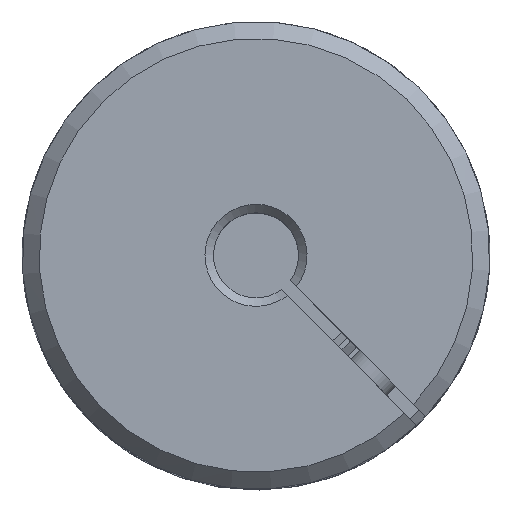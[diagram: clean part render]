
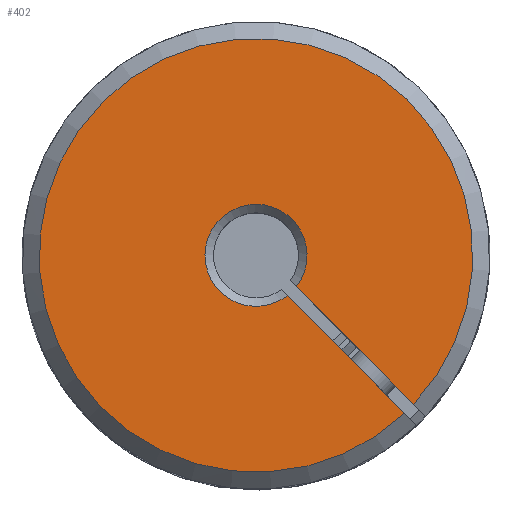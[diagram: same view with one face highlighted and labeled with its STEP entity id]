
A CAD part, top view. The second image highlights one B-rep face of the part: STEP entity #402.
In plain terms, the highlighted planar face has unit normal (0, 0, 1) as drawn and (0, 0, -1) by its records, which use the part's own axes.
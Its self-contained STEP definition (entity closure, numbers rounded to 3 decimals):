
#402 = ADVANCED_FACE( '', ( #802 ), #803, .T. );
#802 = FACE_OUTER_BOUND( '', #1266, .T. );
#803 = PLANE( '', #1267 );
#1266 = EDGE_LOOP( '', ( #1982, #1983, #1984, #1985 ) );
#1267 = AXIS2_PLACEMENT_3D( '', #1986, #1987, #1988 );
#1982 = ORIENTED_EDGE( '', *, *, #3271, .F. );
#1983 = ORIENTED_EDGE( '', *, *, #3322, .T. );
#1984 = ORIENTED_EDGE( '', *, *, #3315, .T. );
#1985 = ORIENTED_EDGE( '', *, *, #3330, .T. );
#1986 = CARTESIAN_POINT( '', ( 0., 0., 0. ) );
#1987 = DIRECTION( '', ( 0., 0., -1. ) );
#1988 = DIRECTION( '', ( 0., -1., 0. ) );
#3271 = EDGE_CURVE( '', #3804, #3806, #3807, .T. );
#3315 = EDGE_CURVE( '', #3875, #3876, #3877, .F. );
#3322 = EDGE_CURVE( '', #3804, #3875, #3888, .T. );
#3330 = EDGE_CURVE( '', #3876, #3806, #3900, .F. );
#3804 = VERTEX_POINT( '', #4751 );
#3806 = VERTEX_POINT( '', #4756 );
#3807 = LINE( '', #4757, #4758 );
#3875 = VERTEX_POINT( '', #4895 );
#3876 = VERTEX_POINT( '', #4896 );
#3877 = LINE( '', #4897, #4898 );
#3888 = CIRCLE( '', #4920, 25.5 );
#3900 = CIRCLE( '', #4938, 6. );
#4751 = CARTESIAN_POINT( '', ( -25.489, 0.75, 0. ) );
#4756 = CARTESIAN_POINT( '', ( -5.953, 0.75, 0. ) );
#4757 = CARTESIAN_POINT( '', ( -27.5, 0.75, 0. ) );
#4758 = VECTOR( '', #5830, 1000. );
#4895 = CARTESIAN_POINT( '', ( -25.489, -0.75, 0. ) );
#4896 = CARTESIAN_POINT( '', ( -5.953, -0.75, 0. ) );
#4897 = CARTESIAN_POINT( '', ( 0., -0.75, 0. ) );
#4898 = VECTOR( '', #5903, 1000. );
#4920 = AXIS2_PLACEMENT_3D( '', #5909, #5910, #5911 );
#4938 = AXIS2_PLACEMENT_3D( '', #5927, #5928, #5929 );
#5830 = DIRECTION( '', ( 1., 0., 0. ) );
#5903 = DIRECTION( '', ( -1., 0., 0. ) );
#5909 = CARTESIAN_POINT( '', ( 0., 0., 0. ) );
#5910 = DIRECTION( '', ( 0., 0., -1. ) );
#5911 = DIRECTION( '', ( -1., 0., 0. ) );
#5927 = CARTESIAN_POINT( '', ( 0., 0., 0. ) );
#5928 = DIRECTION( '', ( 0., 0., -1. ) );
#5929 = DIRECTION( '', ( -1., 0., 0. ) );
